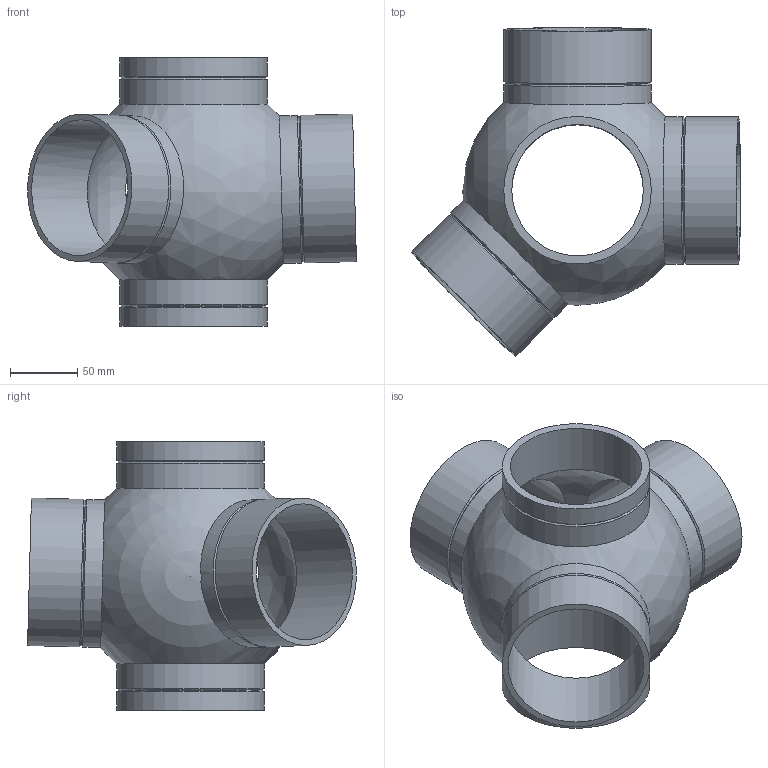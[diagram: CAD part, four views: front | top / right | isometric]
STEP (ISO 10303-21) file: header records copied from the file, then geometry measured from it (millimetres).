
FILE_DESCRIPTION(/* description */ (''),/* implementation_level */ '2;1');
FILE_NAME(/* name */ 'H:\Geberit-Teile\Export\367.600.16.1\stp\367600.stp',/* time_stamp */ '2016-05-09T13:37:49+02:00',/* author */ ('seihe2'),/* organization */ (''),/* preprocessor_version */ 'ST-DEVELOPER v15.2',/* originating_system */ 'Autodesk Inventor 2014',/* authorisation */ '');
FILE_SCHEMA (('AUTOMOTIVE_DESIGN { 1 0 10303 214 3 1 1 }'));
Length unit declared in the file: millimetre
Products named in the file (1): 367600
Bounding box: 245.11 x 245.11 x 200 mm (x, y, z)
Volume: 601208.1 mm3; surface area: 242530.2 mm2
Topology: 1 solids, 1 shells, 32 faces, 82 edges, 53 vertices
Faces by surface type: cylinder 15, cone 10, plane 5, sphere 2
Full cylindrical faces by diameter (mm): 98 x2, 101.4 x3, 110 x10
Entity records: 746 total; most frequent: DIRECTION 136, CARTESIAN_POINT 103, EDGE_LOOP 70, ORIENTED_EDGE 70, AXIS2_PLACEMENT_3D 68, FACE_BOUND 43, CIRCLE 35, VERTEX_POINT 35
